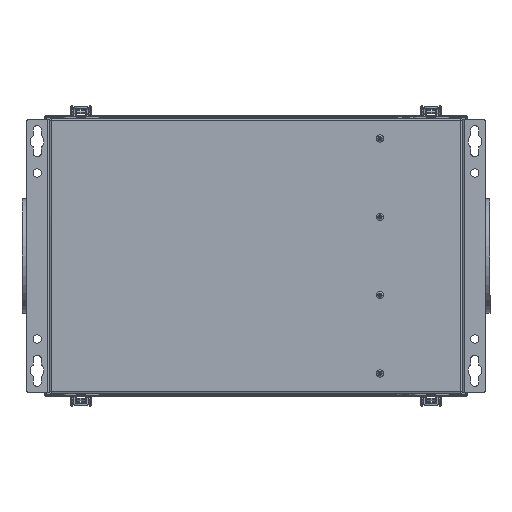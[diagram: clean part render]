
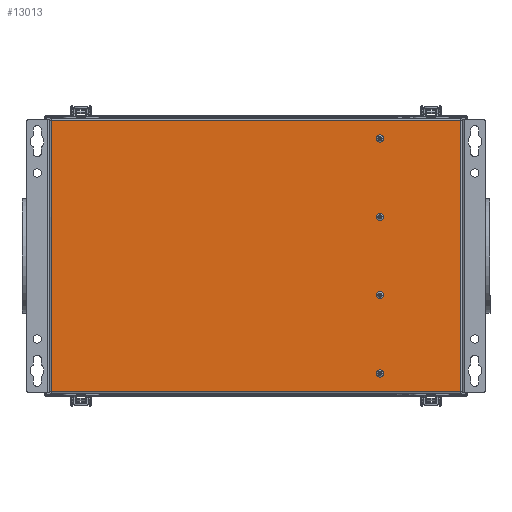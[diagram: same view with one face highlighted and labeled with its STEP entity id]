
A CAD part, front view. The second image highlights one B-rep face of the part: STEP entity #13013.
In plain terms, the highlighted planar face has unit normal (0, -1, 0).
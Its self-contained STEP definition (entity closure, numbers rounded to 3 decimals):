
#428 = ORIENTED_EDGE ( 'NONE', *, *, #2051, .F. ) ;
#737 = DIRECTION ( 'NONE',  ( 0., 1., 0. ) ) ;
#953 = CARTESIAN_POINT ( 'NONE',  ( 135., 0., -125.9 ) ) ;
#1068 = DIRECTION ( 'NONE',  ( 0., -1., 0. ) ) ;
#1261 = VERTEX_POINT ( 'NONE', #21275 ) ;
#1495 = CARTESIAN_POINT ( 'NONE',  ( 135., 0., 128. ) ) ;
#1618 = VERTEX_POINT ( 'NONE', #6315 ) ;
#1726 = CARTESIAN_POINT ( 'NONE',  ( 135., 0., 42.667 ) ) ;
#1899 = CARTESIAN_POINT ( 'NONE',  ( 223., 0., -148. ) ) ;
#2051 = EDGE_CURVE ( 'NONE', #17226, #6154, #23015, .T. ) ;
#2159 = LINE ( 'NONE', #20512, #23614 ) ;
#2274 = EDGE_LOOP ( 'NONE', ( #27727, #2419 ) ) ;
#2419 = ORIENTED_EDGE ( 'NONE', *, *, #23616, .F. ) ;
#2650 = ORIENTED_EDGE ( 'NONE', *, *, #3481, .T. ) ;
#3347 = CARTESIAN_POINT ( 'NONE',  ( 135., 0., 128. ) ) ;
#3356 = ORIENTED_EDGE ( 'NONE', *, *, #24165, .F. ) ;
#3413 = EDGE_LOOP ( 'NONE', ( #23865, #20816 ) ) ;
#3481 = EDGE_CURVE ( 'NONE', #16914, #1261, #2159, .T. ) ;
#3572 = FACE_BOUND ( 'NONE', #3413, .T. ) ;
#3740 = DIRECTION ( 'NONE',  ( 0., 0., -1. ) ) ;
#3986 = VERTEX_POINT ( 'NONE', #27284 ) ;
#4190 = AXIS2_PLACEMENT_3D ( 'NONE', #11794, #737, #16223 ) ;
#4262 = FACE_BOUND ( 'NONE', #2274, .T. ) ;
#4426 = DIRECTION ( 'NONE',  ( 1., 0., 0. ) ) ;
#4892 = LINE ( 'NONE', #28618, #21765 ) ;
#5303 = CARTESIAN_POINT ( 'NONE',  ( 135., 0., -40.567 ) ) ;
#5320 = CARTESIAN_POINT ( 'NONE',  ( 135., 0., -128. ) ) ;
#5381 = EDGE_LOOP ( 'NONE', ( #24883, #3356 ) ) ;
#5557 = EDGE_CURVE ( 'NONE', #22877, #28243, #26715, .T. ) ;
#5584 = DIRECTION ( 'NONE',  ( 0., 0., -1. ) ) ;
#5800 = AXIS2_PLACEMENT_3D ( 'NONE', #25983, #12787, #28186 ) ;
#5874 = CIRCLE ( 'NONE', #5800, 2.1 ) ;
#6154 = VERTEX_POINT ( 'NONE', #12664 ) ;
#6200 = CARTESIAN_POINT ( 'NONE',  ( 135., 0., 42.667 ) ) ;
#6315 = CARTESIAN_POINT ( 'NONE',  ( -223., 0., 148. ) ) ;
#6805 = EDGE_CURVE ( 'NONE', #1261, #1618, #22889, .T. ) ;
#7460 = AXIS2_PLACEMENT_3D ( 'NONE', #1495, #16951, #3740 ) ;
#7585 = EDGE_CURVE ( 'NONE', #8769, #16914, #4892, .T. ) ;
#7651 = CARTESIAN_POINT ( 'NONE',  ( 135., 0., -128. ) ) ;
#7963 = CARTESIAN_POINT ( 'NONE',  ( 135., 0., -130.1 ) ) ;
#8422 = DIRECTION ( 'NONE',  ( 0., 0., -1. ) ) ;
#8467 = CARTESIAN_POINT ( 'NONE',  ( 225., 0., 148. ) ) ;
#8769 = VERTEX_POINT ( 'NONE', #11893 ) ;
#9458 = FACE_BOUND ( 'NONE', #27961, .T. ) ;
#9871 = DIRECTION ( 'NONE',  ( 0., 0., -1. ) ) ;
#10070 = EDGE_LOOP ( 'NONE', ( #14511, #12975, #2650, #28504 ) ) ;
#10377 = AXIS2_PLACEMENT_3D ( 'NONE', #7651, #23082, #9871 ) ;
#10536 = EDGE_CURVE ( 'NONE', #25433, #13574, #14787, .T. ) ;
#10921 = AXIS2_PLACEMENT_3D ( 'NONE', #14355, #1068, #16556 ) ;
#11123 = VECTOR ( 'NONE', #23890, 1000. ) ;
#11794 = CARTESIAN_POINT ( 'NONE',  ( -225., 0., 150. ) ) ;
#11893 = CARTESIAN_POINT ( 'NONE',  ( -223., 0., -148. ) ) ;
#12664 = CARTESIAN_POINT ( 'NONE',  ( 135., 0., 40.567 ) ) ;
#12787 = DIRECTION ( 'NONE',  ( 0., -1., 0. ) ) ;
#12975 = ORIENTED_EDGE ( 'NONE', *, *, #7585, .T. ) ;
#13013 = ADVANCED_FACE ( 'NONE', ( #9458, #4262, #21168, #15302, #3572 ), #18326, .F. ) ;
#13218 = CIRCLE ( 'NONE', #19346, 2.1 ) ;
#13311 = VECTOR ( 'NONE', #18352, 1000. ) ;
#13574 = VERTEX_POINT ( 'NONE', #5303 ) ;
#13600 = EDGE_CURVE ( 'NONE', #22686, #3986, #13218, .T. ) ;
#14355 = CARTESIAN_POINT ( 'NONE',  ( 135., 0., -42.667 ) ) ;
#14511 = ORIENTED_EDGE ( 'NONE', *, *, #20539, .T. ) ;
#14787 = CIRCLE ( 'NONE', #10921, 2.1 ) ;
#14901 = AXIS2_PLACEMENT_3D ( 'NONE', #6200, #21613, #8422 ) ;
#15302 = FACE_BOUND ( 'NONE', #5381, .T. ) ;
#15546 = EDGE_CURVE ( 'NONE', #28243, #22877, #23836, .T. ) ;
#15870 = CARTESIAN_POINT ( 'NONE',  ( 135., 0., 125.9 ) ) ;
#16110 = CARTESIAN_POINT ( 'NONE',  ( 135., 0., -44.767 ) ) ;
#16154 = CARTESIAN_POINT ( 'NONE',  ( -223., 0., 148. ) ) ;
#16223 = DIRECTION ( 'NONE',  ( 0., 0., 1. ) ) ;
#16556 = DIRECTION ( 'NONE',  ( 0., 0., -1. ) ) ;
#16914 = VERTEX_POINT ( 'NONE', #1899 ) ;
#16951 = DIRECTION ( 'NONE',  ( 0., -1., 0. ) ) ;
#17226 = VERTEX_POINT ( 'NONE', #21293 ) ;
#17778 = LINE ( 'NONE', #16154, #13311 ) ;
#18326 = PLANE ( 'NONE',  #4190 ) ;
#18352 = DIRECTION ( 'NONE',  ( 0., 0., -1. ) ) ;
#18475 = DIRECTION ( 'NONE',  ( 0., -1., 0. ) ) ;
#18764 = DIRECTION ( 'NONE',  ( 0., -1., 0. ) ) ;
#19235 = EDGE_CURVE ( 'NONE', #6154, #17226, #25465, .T. ) ;
#19346 = AXIS2_PLACEMENT_3D ( 'NONE', #3347, #18764, #5584 ) ;
#20119 = AXIS2_PLACEMENT_3D ( 'NONE', #1726, #26275, #24861 ) ;
#20512 = CARTESIAN_POINT ( 'NONE',  ( 223., 0., -148. ) ) ;
#20539 = EDGE_CURVE ( 'NONE', #1618, #8769, #17778, .T. ) ;
#20816 = ORIENTED_EDGE ( 'NONE', *, *, #15546, .F. ) ;
#21168 = FACE_OUTER_BOUND ( 'NONE', #10070, .T. ) ;
#21275 = CARTESIAN_POINT ( 'NONE',  ( 223., 0., 148. ) ) ;
#21293 = CARTESIAN_POINT ( 'NONE',  ( 135., 0., 44.767 ) ) ;
#21613 = DIRECTION ( 'NONE',  ( 0., -1., 0. ) ) ;
#21765 = VECTOR ( 'NONE', #4426, 1000. ) ;
#22130 = DIRECTION ( 'NONE',  ( 0., 0., -1. ) ) ;
#22686 = VERTEX_POINT ( 'NONE', #15870 ) ;
#22877 = VERTEX_POINT ( 'NONE', #7963 ) ;
#22889 = LINE ( 'NONE', #8467, #11123 ) ;
#23015 = CIRCLE ( 'NONE', #20119, 2.1 ) ;
#23082 = DIRECTION ( 'NONE',  ( 0., -1., 0. ) ) ;
#23158 = ORIENTED_EDGE ( 'NONE', *, *, #19235, .F. ) ;
#23614 = VECTOR ( 'NONE', #27753, 1000. ) ;
#23616 = EDGE_CURVE ( 'NONE', #3986, #22686, #24181, .T. ) ;
#23836 = CIRCLE ( 'NONE', #10377, 2.1 ) ;
#23865 = ORIENTED_EDGE ( 'NONE', *, *, #5557, .F. ) ;
#23890 = DIRECTION ( 'NONE',  ( -1., 0., 0. ) ) ;
#24165 = EDGE_CURVE ( 'NONE', #13574, #25433, #5874, .T. ) ;
#24181 = CIRCLE ( 'NONE', #7460, 2.1 ) ;
#24663 = AXIS2_PLACEMENT_3D ( 'NONE', #5320, #18475, #22130 ) ;
#24861 = DIRECTION ( 'NONE',  ( 0., 0., -1. ) ) ;
#24883 = ORIENTED_EDGE ( 'NONE', *, *, #10536, .F. ) ;
#25433 = VERTEX_POINT ( 'NONE', #16110 ) ;
#25465 = CIRCLE ( 'NONE', #14901, 2.1 ) ;
#25983 = CARTESIAN_POINT ( 'NONE',  ( 135., 0., -42.667 ) ) ;
#26275 = DIRECTION ( 'NONE',  ( 0., -1., 0. ) ) ;
#26715 = CIRCLE ( 'NONE', #24663, 2.1 ) ;
#27284 = CARTESIAN_POINT ( 'NONE',  ( 135., 0., 130.1 ) ) ;
#27727 = ORIENTED_EDGE ( 'NONE', *, *, #13600, .F. ) ;
#27753 = DIRECTION ( 'NONE',  ( 0., 0., 1. ) ) ;
#27961 = EDGE_LOOP ( 'NONE', ( #23158, #428 ) ) ;
#28186 = DIRECTION ( 'NONE',  ( 0., 0., -1. ) ) ;
#28243 = VERTEX_POINT ( 'NONE', #953 ) ;
#28504 = ORIENTED_EDGE ( 'NONE', *, *, #6805, .T. ) ;
#28618 = CARTESIAN_POINT ( 'NONE',  ( -225., 0., -148. ) ) ;
